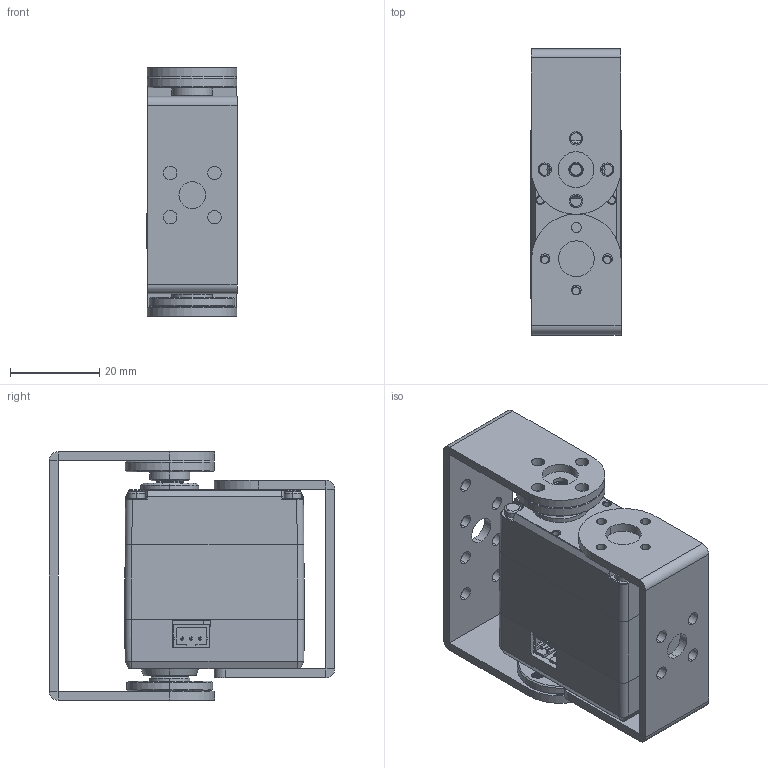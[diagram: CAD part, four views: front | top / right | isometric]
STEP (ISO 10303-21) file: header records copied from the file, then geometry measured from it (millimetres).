
FILE_DESCRIPTION((''),'2;1');
FILE_NAME('SCS15_20220928_ASM','2022-09-29T',('WUSALT01'),(''),'PRO/ENGINEER BY PARAMETRIC TECHNOLOGY CORPORATION, 2008380','PRO/ENGINEER BY PARAMETRIC TECHNOLOGY CORPORATION, 2008380','');
FILE_SCHEMA(('AUTOMOTIVE_DESIGN_CC2 { 1 2 10303 214 -1 1 5 2 }'));
Length unit declared in the file: millimetre
Products named in the file (18): SJ-WK00-0054-TOPCABINET_39; SJ-WK00-0057-BOTTOMCASE_45; SJ-WK00-0056-MIDDLECASE-TTL_79; OUTPUTGEAR_12; OUTGEAR_ASM_6_ASM; SC15-PCB-A_16; PAIZHING2-54_1; MAINPCB-PH2-AMP-20210107_1; AMP-3PIN_ASM_8_ASM; SCS40-PCBA_ASM_9_ASM; FK-AP-019-20210309_1; WJ-DP00-0002-FK-AP-020_1_1; FK-US-001_1; FK-US-002_1; M20X30_3; SCS15_ASM_87_ASM; PH2-3PIN; SCS15_20220928_ASM
Assembly tree (21 placements, depth 5):
  SCS15_20220928_ASM
    SCS15_ASM_87_ASM
      SJ-WK00-0054-TOPCABINET_39
      SJ-WK00-0057-BOTTOMCASE_45
      SJ-WK00-0056-MIDDLECASE-TTL_79
      OUTGEAR_ASM_6_ASM
        OUTPUTGEAR_12
      SCS40-PCBA_ASM_9_ASM
        SC15-PCB-A_16
        PAIZHING2-54_1
        AMP-3PIN_ASM_8_ASM
          MAINPCB-PH2-AMP-20210107_1
      FK-AP-019-20210309_1
      WJ-DP00-0002-FK-AP-020_1_1
      FK-US-001_1
      FK-US-002_1
      M20X30_3  x4
    PH2-3PIN  x2
Bounding box: 20.2 x 63.92 x 55.6 mm (x, y, z)
Volume: 19915.5 mm3; surface area: 28394.2 mm2
Topology: 17 solids, 17 shells, 1695 faces, 4830 edges, 3214 vertices
Faces by surface type: cylinder 755, plane 503, cone 225, extrusion 86, bspline 82, torus 36, sphere 8
Entity records: 67247 total; most frequent: CARTESIAN_POINT 25119, ORIENTED_EDGE 9092, DIRECTION 8481, EDGE_CURVE 4546, AXIS2_PLACEMENT_3D 3245, VERTEX_POINT 3043, VECTOR 1991, LINE 1905
